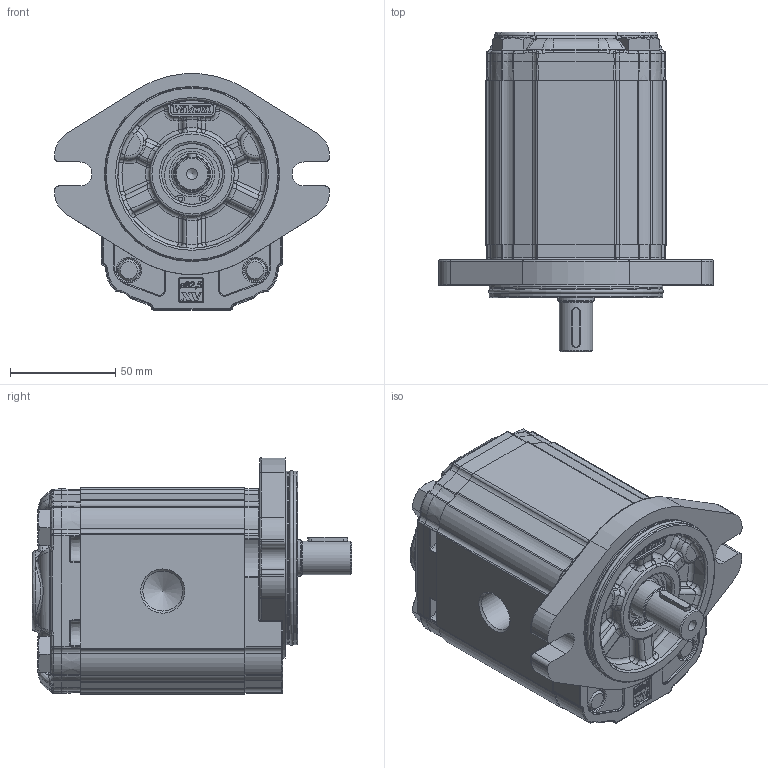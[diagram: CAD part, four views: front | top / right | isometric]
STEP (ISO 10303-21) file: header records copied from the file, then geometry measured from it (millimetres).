
FILE_DESCRIPTION(/* description */ ('Unknown'),/* implementation_level */ '2;1');
FILE_NAME(/* name */ 'X2P5551BCBA',/* time_stamp */ '2021-07-16T13:46:22+02:00',/* author */ ('Unknown'),/* organization */ ('Unknown'),/* preprocessor_version */ 'ST-DEVELOPER v16.7',/* originating_system */ 'Solid Edge',/* authorisation */ 'Unknown');
FILE_SCHEMA (('AUTOMOTIVE_DESIGN {1 0 10303 214 3 1 1}'));
Products named in the file (5): X2P5551BCBA; X2P51; 2B; X2CBH78; XP219-A
Assembly tree (4 placements, depth 2):
  X2P5551BCBA
    X2P51
    2B
    X2CBH78
    XP219-A
Bounding box: 130.38 x 151.7 x 112.3 mm (x, y, z)
Volume: 883217.8 mm3; surface area: 122681.2 mm2
Topology: 4 solids, 6 shells, 2087 faces, 5117 edges, 3101 vertices
Faces by surface type: cylinder 623, plane 573, bspline 537, torus 243, cone 73, sphere 38
Full cylindrical faces by diameter (mm): 2 x2, 5.367 x1, 10 x4, 10.5 x8, 11 x2, 15.875 x1, 16 x4, 17.42 x1, 17.48 x2, 18.724 x1, 19 x1, 20.595 x1, 21.741 x1, 24.117 x1, 25.834 x1, 28.56 x1, 28.57 x1, 28.8 x1, 30.4 x1, 79.6 x2, 82.5 x2
Entity records: 88674 total; most frequent: CARTESIAN_POINT 29293, ORIENTED_EDGE 9874, DIRECTION 8251, EDGE_CURVE 4937, AXIS2_PLACEMENT_3D 3110, VERTEX_POINT 3050, FACE_BOUND 2287, EDGE_LOOP 2283
